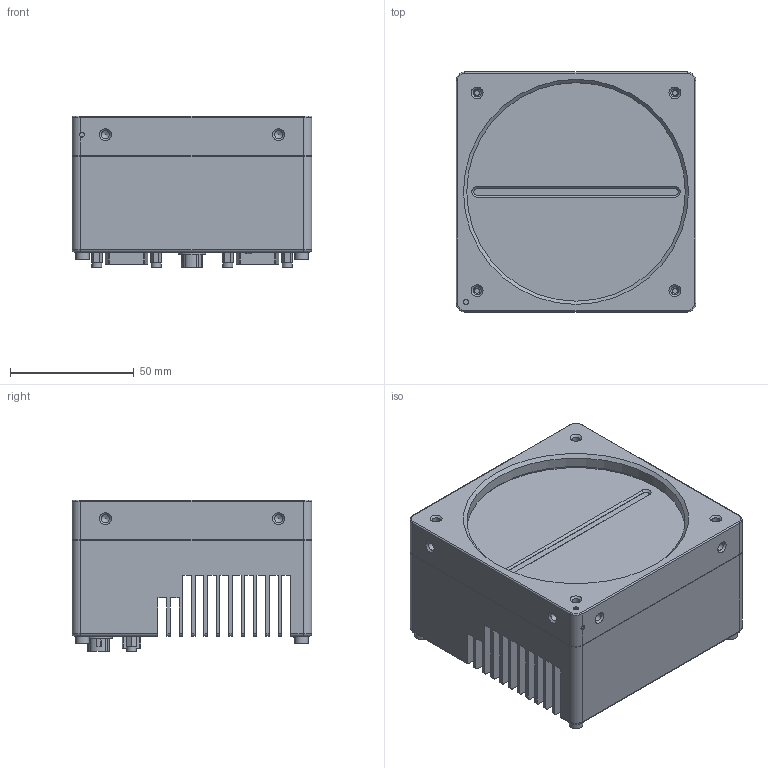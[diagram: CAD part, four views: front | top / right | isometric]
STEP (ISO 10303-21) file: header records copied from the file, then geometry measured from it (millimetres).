
FILE_DESCRIPTION(/* description */ ('LIBERTY - 97MM CAMERA ASSEMBLY'),/* implementation_level */ '2;1');
FILE_NAME(/* name */ 'C:\_01_DME_Vault\_01_DME_Vault_Projects\Liberty\03-129-20163-00 LIBERTY - 97MM CUSTOMER DRAWING\03-129-20163-00 LIBERTY - 97MM USER 3D MODLE.stp',/* time_stamp */ '2015-05-21T15:33:12-04:00',/* author */ ('jiang'),/* organization */ (''),/* preprocessor_version */ 'ST-DEVELOPER v15.2',/* originating_system */ 'Autodesk Inventor 2014',/* authorisation */ '');
FILE_SCHEMA (('AUTOMOTIVE_DESIGN { 1 0 10303 214 3 1 1 }'));
Products named in the file (1): 03-129-20163-00 LIBERTY - 97MM MODLE FOR STP FILE 
Bounding box: 97 x 97 x 61.4 mm (x, y, z)
Volume: 165122.6 mm3; surface area: 134489 mm2
Topology: 3 solids, 7 shells, 3930 faces, 10534 edges, 6995 vertices
Faces by surface type: plane 2690, bspline 840, cylinder 343, cone 48, torus 8, sphere 1
Full cylindrical faces by diameter (mm): 0.125 x3, 0.53 x6, 2 x2, 2.013 x8, 2.459 x4, 2.845 x1, 2.92 x1, 3 x8, 3.2 x8, 3.242 x12, 4 x4, 5.5 x4, 8 x1, 8.77 x1, 11 x1, 88.376 x1, 91 x1
Entity records: 131814 total; most frequent: CARTESIAN_POINT 34848, ORIENTED_EDGE 20774, DIRECTION 15855, EDGE_CURVE 10385, LINE 7929, VECTOR 7929, VERTEX_POINT 6958, EDGE_LOOP 4440
